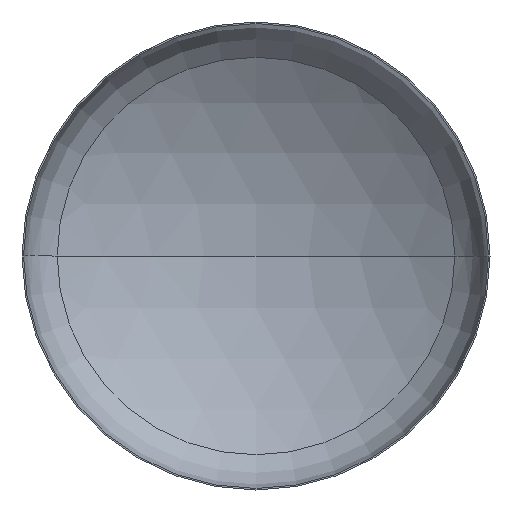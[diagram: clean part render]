
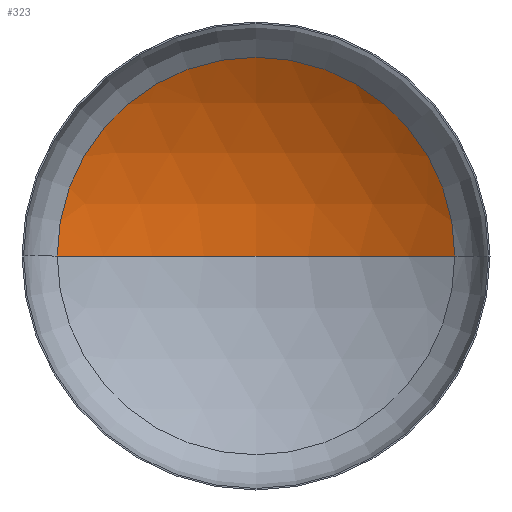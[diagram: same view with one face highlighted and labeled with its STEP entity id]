
A CAD part, front view. The second image highlights one B-rep face of the part: STEP entity #323.
In plain terms, the highlighted spherical face has radius 2240 mm.
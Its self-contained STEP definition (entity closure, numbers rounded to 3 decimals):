
#5 = AXIS2_PLACEMENT_3D ( 'NONE', #174, #175, #149 ) ;
#7 = CARTESIAN_POINT ( 'NONE',  ( 0., 394.386, 0. ) ) ;
#9 = AXIS2_PLACEMENT_3D ( 'NONE', #7, #155, #133 ) ;
#30 = AXIS2_PLACEMENT_3D ( 'NONE', #314, #404, #309 ) ;
#34 = VERTEX_POINT ( 'NONE', #243 ) ;
#48 = ORIENTED_EDGE ( 'NONE', *, *, #366, .T. ) ;
#52 = DIRECTION ( 'NONE',  ( 0., 0., 1. ) ) ;
#70 = CARTESIAN_POINT ( 'NONE',  ( 0., -1503.812, 0. ) ) ;
#71 = ORIENTED_EDGE ( 'NONE', *, *, #375, .T. ) ;
#87 = VERTEX_POINT ( 'NONE', #222 ) ;
#102 = SPHERICAL_SURFACE ( 'NONE', #30, 2240. ) ;
#104 = ORIENTED_EDGE ( 'NONE', *, *, #392, .F. ) ;
#118 = EDGE_LOOP ( 'NONE', ( #104, #71, #48 ) ) ;
#131 = VERTEX_POINT ( 'NONE', #340 ) ;
#133 = DIRECTION ( 'NONE',  ( 1., 0., 0. ) ) ;
#149 = DIRECTION ( 'NONE',  ( -1., 0., 0. ) ) ;
#155 = DIRECTION ( 'NONE',  ( 0., -1., 0. ) ) ;
#165 = DIRECTION ( 'NONE',  ( 1., 0., 0. ) ) ;
#174 = CARTESIAN_POINT ( 'NONE',  ( 0., -1503.812, 0. ) ) ;
#175 = DIRECTION ( 'NONE',  ( 0., 0., -1. ) ) ;
#222 = CARTESIAN_POINT ( 'NONE',  ( 1189.304, 394.386, 0. ) ) ;
#243 = CARTESIAN_POINT ( 'NONE',  ( -1189.304, 394.386, 0. ) ) ;
#273 = AXIS2_PLACEMENT_3D ( 'NONE', #70, #52, #165 ) ;
#309 = DIRECTION ( 'NONE',  ( -1., 0., 0. ) ) ;
#314 = CARTESIAN_POINT ( 'NONE',  ( 0., -1503.812, 0. ) ) ;
#319 = CIRCLE ( 'NONE', #9, 1189.304 ) ;
#323 = ADVANCED_FACE ( 'NONE', ( #391 ), #102, .F. ) ;
#340 = CARTESIAN_POINT ( 'NONE',  ( 0., 736.188, 0. ) ) ;
#366 = EDGE_CURVE ( 'NONE', #87, #34, #319, .T. ) ;
#367 = CIRCLE ( 'NONE', #273, 2240. ) ;
#375 = EDGE_CURVE ( 'NONE', #131, #87, #407, .T. ) ;
#391 = FACE_OUTER_BOUND ( 'NONE', #118, .T. ) ;
#392 = EDGE_CURVE ( 'NONE', #131, #34, #367, .T. ) ;
#404 = DIRECTION ( 'NONE',  ( 0., 0., -1. ) ) ;
#407 = CIRCLE ( 'NONE', #5, 2240. ) ;
